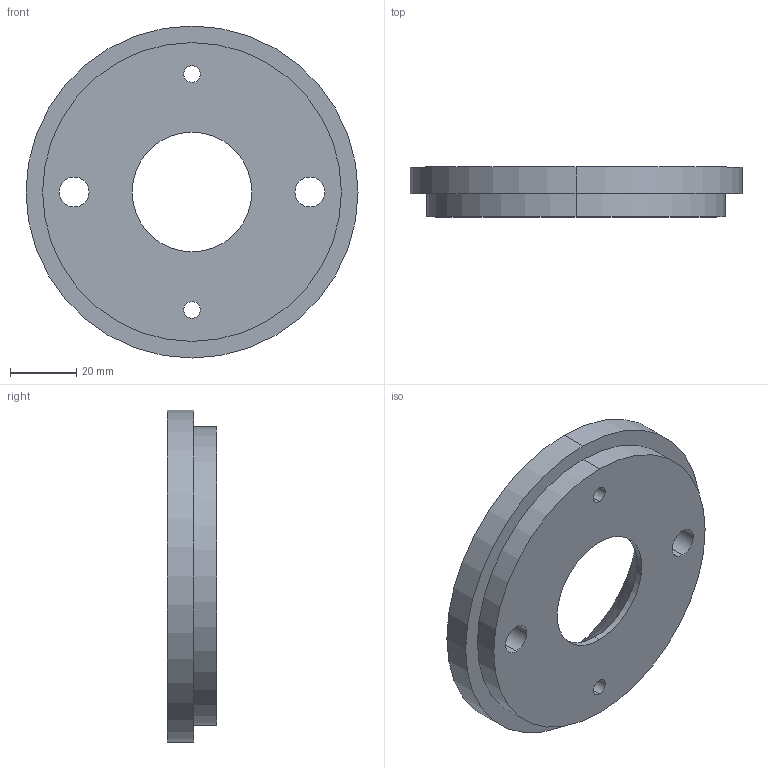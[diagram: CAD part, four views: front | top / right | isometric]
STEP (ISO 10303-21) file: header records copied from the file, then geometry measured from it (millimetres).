
FILE_DESCRIPTION (( 'STEP AP214' ), '1' );
FILE_NAME ('DHR21_100x15.STEP', '2016-02-08T22:29:40', ( '' ), ( '' ), 'SwSTEP 2.0', 'SolidWorks 2014', '' );
FILE_SCHEMA (( 'AUTOMOTIVE_DESIGN' ));
Length unit declared in the file: millimetre
Products named in the file (1): DHR21_100x15
Bounding box: 100 x 15 x 100 mm (x, y, z)
Volume: 75851.5 mm3; surface area: 20462.1 mm2
Topology: 1 solids, 1 shells, 25 faces, 64 edges, 42 vertices
Faces by surface type: cylinder 18, plane 5, cone 2
Entity records: 888 total; most frequent: CARTESIAN_POINT 186, DIRECTION 156, ORIENTED_EDGE 128, AXIS2_PLACEMENT_3D 68, EDGE_CURVE 64, CIRCLE 42, VERTEX_POINT 42, EDGE_LOOP 36
